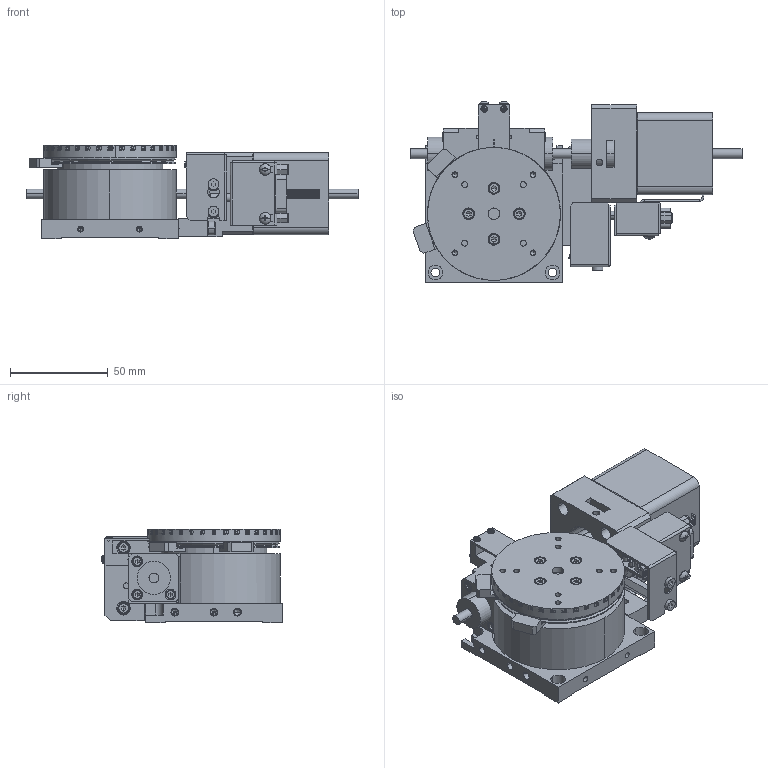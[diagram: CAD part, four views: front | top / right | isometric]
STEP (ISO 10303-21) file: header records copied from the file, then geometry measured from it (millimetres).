
FILE_DESCRIPTION( (''), '2;1');
FILE_NAME ('MVRA07A-W02-R.stp','2021-03-16T11:16:46',(''),(''),'spGate 15.6.6','','');
FILE_SCHEMA (('AUTOMOTIVE_DESIGN'));
Length unit declared in the file: millimetre
Products named in the file (3): Assembly; MVRA07A-W02-R-prt0; MVRA07A-W02-R-prt1
Assembly tree (2 placements, depth 2):
  Assembly
    MVRA07A-W02-R-prt0
    MVRA07A-W02-R-prt1
Bounding box: 170 x 92.49 x 48 mm (x, y, z)
Volume: 273482.9 mm3; surface area: 92972.4 mm2
Topology: 1 solids, 2 shells, 4526 faces, 12021 edges, 7748 vertices
Faces by surface type: plane 3227, cylinder 804, bspline 451, sphere 44
Entity records: 242684 total; most frequent: CARTESIAN_POINT 37459, ORIENTED_EDGE 24430, DIRECTION 20039, COLOUR_RGB 17053, PRESENTATION_STYLE_ASSIGNMENT 17053, STYLED_ITEM 17053, EDGE_CURVE 12525, DRAUGHTING_PRE_DEFINED_CURVE_FONT 12525
